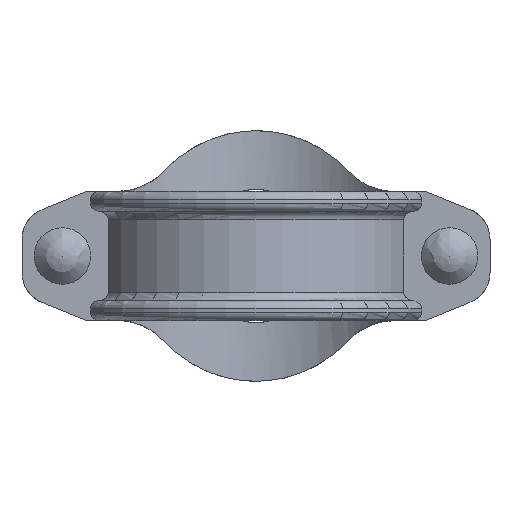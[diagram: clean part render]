
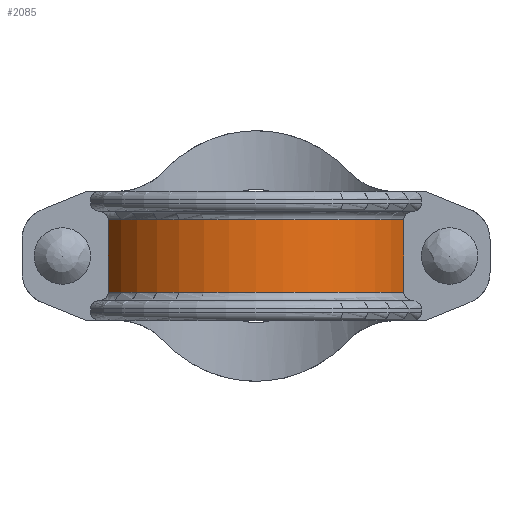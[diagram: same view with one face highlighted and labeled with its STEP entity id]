
A CAD part, front view. The second image highlights one B-rep face of the part: STEP entity #2085.
In plain terms, the highlighted cylindrical face has radius 63.5 mm (diameter 127 mm), a partial arc.
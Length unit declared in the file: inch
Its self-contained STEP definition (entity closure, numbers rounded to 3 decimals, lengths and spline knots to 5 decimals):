
#169=CIRCLE('',#2286,2.5);
#170=CIRCLE('',#2288,2.5);
#245=CYLINDRICAL_SURFACE('',#2287,2.5);
#333=FACE_OUTER_BOUND('',#445,.T.);
#445=EDGE_LOOP('',(#1668,#1669,#1670,#1671));
#597=LINE('',#4209,#749);
#598=LINE('',#4212,#750);
#749=VECTOR('',#2782,0.3937);
#750=VECTOR('',#2785,0.3937);
#949=VERTEX_POINT('',#4184);
#950=VERTEX_POINT('',#4195);
#951=VERTEX_POINT('',#4208);
#952=VERTEX_POINT('',#4210);
#1217=EDGE_CURVE('',#949,#950,#169,.T.);
#1219=EDGE_CURVE('',#951,#949,#597,.T.);
#1220=EDGE_CURVE('',#951,#952,#170,.T.);
#1221=EDGE_CURVE('',#950,#952,#598,.T.);
#1668=ORIENTED_EDGE('',*,*,#1219,.F.);
#1669=ORIENTED_EDGE('',*,*,#1220,.T.);
#1670=ORIENTED_EDGE('',*,*,#1221,.F.);
#1671=ORIENTED_EDGE('',*,*,#1217,.F.);
#2085=ADVANCED_FACE('',(#333),#245,.T.);
#2286=AXIS2_PLACEMENT_3D('',#4196,#2778,#2779);
#2287=AXIS2_PLACEMENT_3D('',#4207,#2780,#2781);
#2288=AXIS2_PLACEMENT_3D('',#4211,#2783,#2784);
#2778=DIRECTION('center_axis',(0.,0.,
1.));
#2779=DIRECTION('ref_axis',(-1.,0.,0.));
#2780=DIRECTION('center_axis',(0.,0.,1.));
#2781=DIRECTION('ref_axis',(-1.,0.,0.));
#2782=DIRECTION('',(0.,0.,1.));
#2783=DIRECTION('center_axis',(0.,0.,1.));
#2784=DIRECTION('ref_axis',(-1.,0.,0.));
#2785=DIRECTION('',(0.,0.,-1.));
#4184=CARTESIAN_POINT('',(-2.29129,-1.,0.56));
#4195=CARTESIAN_POINT('',(2.29129,-1.,0.56));
#4196=CARTESIAN_POINT('Origin',(0.,0.,
0.56));
#4207=CARTESIAN_POINT('Origin',(0.,0.,0.));
#4208=CARTESIAN_POINT('',(-2.29129,-1.,-0.56));
#4209=CARTESIAN_POINT('',(-2.29129,-1.,0.));
#4210=CARTESIAN_POINT('',(2.29129,-1.,-0.56));
#4211=CARTESIAN_POINT('Origin',(0.,0.,
-0.56));
#4212=CARTESIAN_POINT('',(2.29129,-1.,0.));
